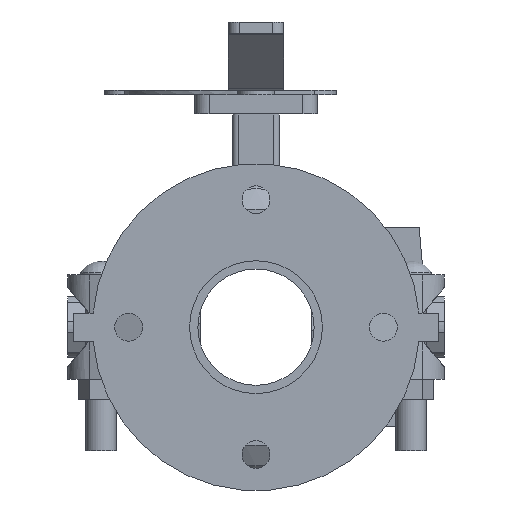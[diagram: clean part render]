
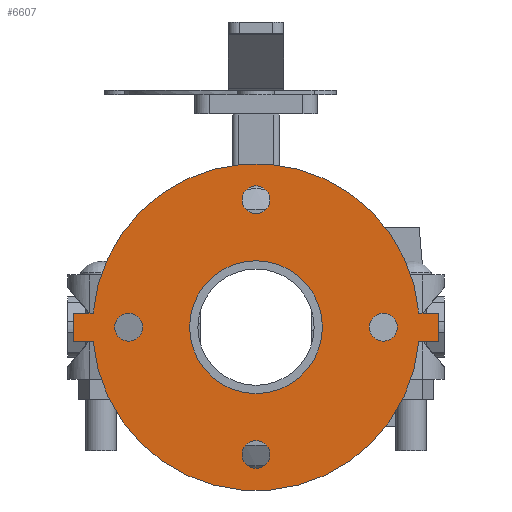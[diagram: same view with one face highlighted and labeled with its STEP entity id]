
A CAD part, front view. The second image highlights one B-rep face of the part: STEP entity #6607.
In plain terms, the highlighted planar face has unit normal (0, -1, 0) as drawn and (0, 0, -1) by its records, which use the part's own axes.
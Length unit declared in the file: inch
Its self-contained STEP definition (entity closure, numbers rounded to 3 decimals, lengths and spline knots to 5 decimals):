
#155=FACE_BOUND('',#809,.T.);
#156=FACE_BOUND('',#810,.T.);
#157=FACE_BOUND('',#811,.T.);
#158=FACE_BOUND('',#812,.T.);
#159=FACE_BOUND('',#813,.T.);
#235=PLANE('',#7158);
#447=FACE_OUTER_BOUND('',#808,.T.);
#808=EDGE_LOOP('',(#4271,#4272,#4273,#4274,#4275,#4276,#4277,#4278));
#809=EDGE_LOOP('',(#4279));
#810=EDGE_LOOP('',(#4280));
#811=EDGE_LOOP('',(#4281));
#812=EDGE_LOOP('',(#4282));
#813=EDGE_LOOP('',(#4283));
#1232=LINE('',#10015,#1742);
#1235=LINE('',#10021,#1745);
#1238=LINE('',#10026,#1748);
#1240=LINE('',#10031,#1750);
#1244=LINE('',#10038,#1754);
#1246=LINE('',#10041,#1756);
#1742=VECTOR('',#7960,0.3937);
#1745=VECTOR('',#7965,0.3937);
#1748=VECTOR('',#7970,0.3937);
#1750=VECTOR('',#7974,0.3937);
#1754=VECTOR('',#7980,0.3937);
#1756=VECTOR('',#7984,0.3937);
#2244=CIRCLE('',#7132,0.315);
#2246=CIRCLE('',#7135,0.315);
#2248=CIRCLE('',#7138,0.315);
#2250=CIRCLE('',#7141,0.315);
#2251=CIRCLE('',#7143,1.5);
#2253=CIRCLE('',#7146,3.69);
#2256=CIRCLE('',#7150,3.69);
#2625=VERTEX_POINT('',#9968);
#2627=VERTEX_POINT('',#9974);
#2629=VERTEX_POINT('',#9980);
#2631=VERTEX_POINT('',#9986);
#2632=VERTEX_POINT('',#9990);
#2634=VERTEX_POINT('',#9996);
#2636=VERTEX_POINT('',#9999);
#2638=VERTEX_POINT('',#10005);
#2641=VERTEX_POINT('',#10010);
#2642=VERTEX_POINT('',#10014);
#2644=VERTEX_POINT('',#10020);
#2646=VERTEX_POINT('',#10029);
#2647=VERTEX_POINT('',#10030);
#3261=EDGE_CURVE('',#2625,#2625,#2244,.T.);
#3264=EDGE_CURVE('',#2627,#2627,#2246,.T.);
#3267=EDGE_CURVE('',#2629,#2629,#2248,.T.);
#3270=EDGE_CURVE('',#2631,#2631,#2250,.T.);
#3271=EDGE_CURVE('',#2632,#2632,#2251,.T.);
#3275=EDGE_CURVE('',#2634,#2636,#2253,.T.);
#3281=EDGE_CURVE('',#2641,#2638,#2256,.T.);
#3282=EDGE_CURVE('',#2636,#2642,#1232,.T.);
#3285=EDGE_CURVE('',#2644,#2641,#1235,.T.);
#3288=EDGE_CURVE('',#2642,#2644,#1238,.T.);
#3290=EDGE_CURVE('',#2646,#2647,#1240,.T.);
#3294=EDGE_CURVE('',#2638,#2646,#1244,.T.);
#3296=EDGE_CURVE('',#2647,#2634,#1246,.T.);
#4271=ORIENTED_EDGE('',*,*,#3296,.F.);
#4272=ORIENTED_EDGE('',*,*,#3290,.F.);
#4273=ORIENTED_EDGE('',*,*,#3294,.F.);
#4274=ORIENTED_EDGE('',*,*,#3281,.F.);
#4275=ORIENTED_EDGE('',*,*,#3285,.F.);
#4276=ORIENTED_EDGE('',*,*,#3288,.F.);
#4277=ORIENTED_EDGE('',*,*,#3282,.F.);
#4278=ORIENTED_EDGE('',*,*,#3275,.F.);
#4279=ORIENTED_EDGE('',*,*,#3261,.T.);
#4280=ORIENTED_EDGE('',*,*,#3264,.T.);
#4281=ORIENTED_EDGE('',*,*,#3267,.T.);
#4282=ORIENTED_EDGE('',*,*,#3270,.T.);
#4283=ORIENTED_EDGE('',*,*,#3271,.T.);
#6607=ADVANCED_FACE('',(#447,#155,#156,#157,#158,#159),#235,.F.);
#7132=AXIS2_PLACEMENT_3D('',#9970,#7912,#7913);
#7135=AXIS2_PLACEMENT_3D('',#9976,#7919,#7920);
#7138=AXIS2_PLACEMENT_3D('',#9982,#7926,#7927);
#7141=AXIS2_PLACEMENT_3D('',#9988,#7933,#7934);
#7143=AXIS2_PLACEMENT_3D('',#9991,#7937,#7938);
#7146=AXIS2_PLACEMENT_3D('',#10000,#7945,#7946);
#7150=AXIS2_PLACEMENT_3D('',#10012,#7956,#7957);
#7158=AXIS2_PLACEMENT_3D('',#10044,#7988,#7989);
#7912=DIRECTION('center_axis',(0.,0.,1.));
#7913=DIRECTION('ref_axis',(-1.,0.,0.));
#7919=DIRECTION('center_axis',(0.,0.,1.));
#7920=DIRECTION('ref_axis',(0.,1.,0.));
#7926=DIRECTION('center_axis',(0.,0.,1.));
#7927=DIRECTION('ref_axis',(1.,0.,0.));
#7933=DIRECTION('center_axis',(0.,0.,1.));
#7934=DIRECTION('ref_axis',(0.,-1.,0.));
#7937=DIRECTION('center_axis',(0.,0.,1.));
#7938=DIRECTION('ref_axis',(0.,-1.,0.));
#7945=DIRECTION('center_axis',(0.,0.,1.));
#7946=DIRECTION('ref_axis',(0.,1.,0.));
#7956=DIRECTION('center_axis',(0.,0.,1.));
#7957=DIRECTION('ref_axis',(0.,1.,0.));
#7960=DIRECTION('',(0.,-1.,0.));
#7965=DIRECTION('',(0.,1.,0.));
#7970=DIRECTION('',(1.,0.,0.));
#7974=DIRECTION('',(-1.,0.,0.));
#7980=DIRECTION('',(0.,1.,0.));
#7984=DIRECTION('',(0.,-1.,0.));
#7988=DIRECTION('center_axis',(0.,0.,1.));
#7989=DIRECTION('ref_axis',(0.,1.,0.));
#9968=CARTESIAN_POINT('',(0.315,2.875,0.));
#9970=CARTESIAN_POINT('Origin',(0.,2.875,0.));
#9974=CARTESIAN_POINT('',(2.875,-0.315,0.));
#9976=CARTESIAN_POINT('Origin',(2.875,0.,0.));
#9980=CARTESIAN_POINT('',(-0.315,-2.875,0.));
#9982=CARTESIAN_POINT('Origin',(0.,-2.875,0.));
#9986=CARTESIAN_POINT('',(-2.875,0.315,0.));
#9988=CARTESIAN_POINT('Origin',(-2.875,0.,0.));
#9990=CARTESIAN_POINT('',(0.,1.5,0.));
#9991=CARTESIAN_POINT('Origin',(0.,0.,0.));
#9996=CARTESIAN_POINT('',(-0.32,3.6761,0.));
#9999=CARTESIAN_POINT('',(-0.32,-3.6761,0.));
#10000=CARTESIAN_POINT('Origin',(0.,0.,0.));
#10005=CARTESIAN_POINT('',(0.32,3.6761,0.));
#10010=CARTESIAN_POINT('',(0.32,-3.6761,0.));
#10012=CARTESIAN_POINT('Origin',(0.,0.,0.));
#10014=CARTESIAN_POINT('',(-0.32,-4.125,0.));
#10015=CARTESIAN_POINT('',(-0.32,-3.6761,0.));
#10020=CARTESIAN_POINT('',(0.32,-4.125,0.));
#10021=CARTESIAN_POINT('',(0.32,-4.125,0.));
#10026=CARTESIAN_POINT('',(-0.32,-4.125,0.));
#10029=CARTESIAN_POINT('',(0.32,4.125,0.));
#10030=CARTESIAN_POINT('',(-0.32,4.125,0.));
#10031=CARTESIAN_POINT('',(0.32,4.125,0.));
#10038=CARTESIAN_POINT('',(0.32,3.6761,0.));
#10041=CARTESIAN_POINT('',(-0.32,4.125,0.));
#10044=CARTESIAN_POINT('Origin',(0.,3.92048,
0.));
